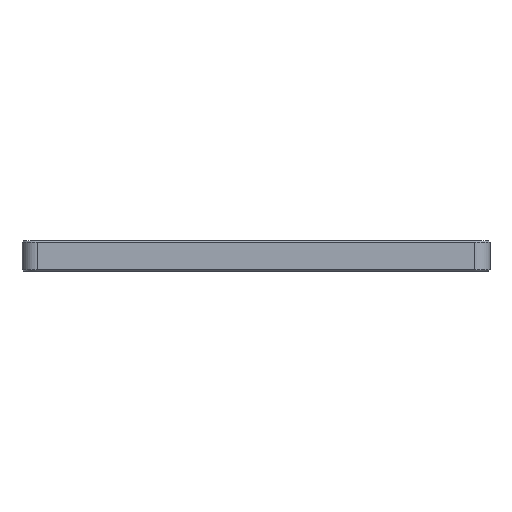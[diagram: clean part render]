
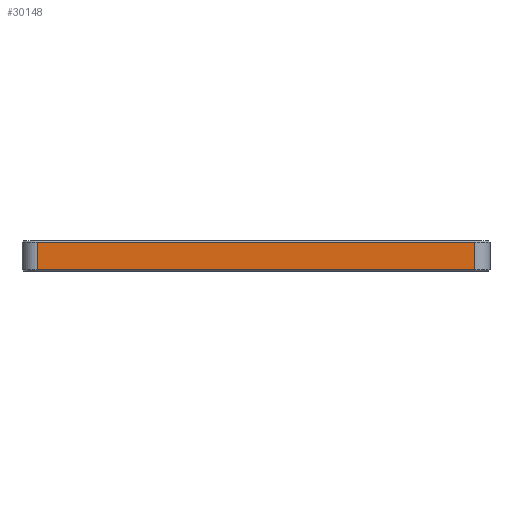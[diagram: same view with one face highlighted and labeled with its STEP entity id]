
A CAD part, front view. The second image highlights one B-rep face of the part: STEP entity #30148.
In plain terms, the highlighted planar face has unit normal (0, -1, 0).
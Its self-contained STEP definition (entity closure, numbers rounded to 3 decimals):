
#335 = PLANE('',#336);
#336 = AXIS2_PLACEMENT_3D('',#337,#338,#339);
#337 = CARTESIAN_POINT('',(293.6,0.5,19.247));
#338 = DIRECTION('',(0.,0.707,-0.707));
#339 = DIRECTION('',(-1.,0.,-0.));
#3107 = CYLINDRICAL_SURFACE('',#3108,10.);
#3108 = AXIS2_PLACEMENT_3D('',#3109,#3110,#3111);
#3109 = CARTESIAN_POINT('',(10.,10.,0.));
#3110 = DIRECTION('',(-0.,-0.,-1.));
#3111 = DIRECTION('',(1.,0.,0.));
#27490 = PLANE('',#27491);
#27491 = AXIS2_PLACEMENT_3D('',#27492,#27493,#27494);
#27492 = CARTESIAN_POINT('',(293.6,0.4,0.4));
#27493 = DIRECTION('',(0.,-0.707,-0.707));
#27494 = DIRECTION('',(-1.,-0.,0.));
#30016 = CYLINDRICAL_SURFACE('',#30017,10.);
#30017 = AXIS2_PLACEMENT_3D('',#30018,#30019,#30020);
#30018 = CARTESIAN_POINT('',(293.6,10.,0.));
#30019 = DIRECTION('',(-0.,-0.,-1.));
#30020 = DIRECTION('',(1.,0.,0.));
#30074 = EDGE_CURVE('',#30075,#30077,#30079,.T.);
#30075 = VERTEX_POINT('',#30076);
#30076 = CARTESIAN_POINT('',(293.6,0.,0.8));
#30077 = VERTEX_POINT('',#30078);
#30078 = CARTESIAN_POINT('',(293.6,0.,18.747));
#30079 = SURFACE_CURVE('',#30080,(#30084,#30091),.PCURVE_S1.);
#30080 = LINE('',#30081,#30082);
#30081 = CARTESIAN_POINT('',(293.6,0.,0.));
#30082 = VECTOR('',#30083,1.);
#30083 = DIRECTION('',(0.,0.,1.));
#30084 = PCURVE('',#30016,#30085);
#30085 = DEFINITIONAL_REPRESENTATION('',(#30086),#30090);
#30086 = LINE('',#30087,#30088);
#30087 = CARTESIAN_POINT('',(-4.712,0.));
#30088 = VECTOR('',#30089,1.);
#30089 = DIRECTION('',(-0.,-1.));
#30090 = ( GEOMETRIC_REPRESENTATION_CONTEXT(2) 
PARAMETRIC_REPRESENTATION_CONTEXT() REPRESENTATION_CONTEXT('2D SPACE',''
  ) );
#30091 = PCURVE('',#30092,#30097);
#30092 = PLANE('',#30093);
#30093 = AXIS2_PLACEMENT_3D('',#30094,#30095,#30096);
#30094 = CARTESIAN_POINT('',(10.,0.,0.));
#30095 = DIRECTION('',(0.,1.,0.));
#30096 = DIRECTION('',(1.,0.,0.));
#30097 = DEFINITIONAL_REPRESENTATION('',(#30098),#30102);
#30098 = LINE('',#30099,#30100);
#30099 = CARTESIAN_POINT('',(283.6,0.));
#30100 = VECTOR('',#30101,1.);
#30101 = DIRECTION('',(0.,-1.));
#30102 = ( GEOMETRIC_REPRESENTATION_CONTEXT(2) 
PARAMETRIC_REPRESENTATION_CONTEXT() REPRESENTATION_CONTEXT('2D SPACE',''
  ) );
#30148 = ADVANCED_FACE('',(#30149),#30092,.F.);
#30149 = FACE_BOUND('',#30150,.F.);
#30150 = EDGE_LOOP('',(#30151,#30176,#30197,#30198));
#30151 = ORIENTED_EDGE('',*,*,#30152,.T.);
#30152 = EDGE_CURVE('',#30153,#30155,#30157,.T.);
#30153 = VERTEX_POINT('',#30154);
#30154 = CARTESIAN_POINT('',(10.,0.,0.8));
#30155 = VERTEX_POINT('',#30156);
#30156 = CARTESIAN_POINT('',(10.,0.,18.747));
#30157 = SURFACE_CURVE('',#30158,(#30162,#30169),.PCURVE_S1.);
#30158 = LINE('',#30159,#30160);
#30159 = CARTESIAN_POINT('',(10.,0.,0.));
#30160 = VECTOR('',#30161,1.);
#30161 = DIRECTION('',(0.,0.,1.));
#30162 = PCURVE('',#30092,#30163);
#30163 = DEFINITIONAL_REPRESENTATION('',(#30164),#30168);
#30164 = LINE('',#30165,#30166);
#30165 = CARTESIAN_POINT('',(0.,0.));
#30166 = VECTOR('',#30167,1.);
#30167 = DIRECTION('',(0.,-1.));
#30168 = ( GEOMETRIC_REPRESENTATION_CONTEXT(2) 
PARAMETRIC_REPRESENTATION_CONTEXT() REPRESENTATION_CONTEXT('2D SPACE',''
  ) );
#30169 = PCURVE('',#3107,#30170);
#30170 = DEFINITIONAL_REPRESENTATION('',(#30171),#30175);
#30171 = LINE('',#30172,#30173);
#30172 = CARTESIAN_POINT('',(-4.712,0.));
#30173 = VECTOR('',#30174,1.);
#30174 = DIRECTION('',(-0.,-1.));
#30175 = ( GEOMETRIC_REPRESENTATION_CONTEXT(2) 
PARAMETRIC_REPRESENTATION_CONTEXT() REPRESENTATION_CONTEXT('2D SPACE',''
  ) );
#30176 = ORIENTED_EDGE('',*,*,#30177,.F.);
#30177 = EDGE_CURVE('',#30077,#30155,#30178,.T.);
#30178 = SURFACE_CURVE('',#30179,(#30183,#30190),.PCURVE_S1.);
#30179 = LINE('',#30180,#30181);
#30180 = CARTESIAN_POINT('',(293.6,0.,18.747));
#30181 = VECTOR('',#30182,1.);
#30182 = DIRECTION('',(-1.,-0.,-0.));
#30183 = PCURVE('',#30092,#30184);
#30184 = DEFINITIONAL_REPRESENTATION('',(#30185),#30189);
#30185 = LINE('',#30186,#30187);
#30186 = CARTESIAN_POINT('',(283.6,-18.747));
#30187 = VECTOR('',#30188,1.);
#30188 = DIRECTION('',(-1.,0.));
#30189 = ( GEOMETRIC_REPRESENTATION_CONTEXT(2) 
PARAMETRIC_REPRESENTATION_CONTEXT() REPRESENTATION_CONTEXT('2D SPACE',''
  ) );
#30190 = PCURVE('',#335,#30191);
#30191 = DEFINITIONAL_REPRESENTATION('',(#30192),#30196);
#30192 = LINE('',#30193,#30194);
#30193 = CARTESIAN_POINT('',(0.,-0.707));
#30194 = VECTOR('',#30195,1.);
#30195 = DIRECTION('',(1.,0.));
#30196 = ( GEOMETRIC_REPRESENTATION_CONTEXT(2) 
PARAMETRIC_REPRESENTATION_CONTEXT() REPRESENTATION_CONTEXT('2D SPACE',''
  ) );
#30197 = ORIENTED_EDGE('',*,*,#30074,.F.);
#30198 = ORIENTED_EDGE('',*,*,#30199,.T.);
#30199 = EDGE_CURVE('',#30075,#30153,#30200,.T.);
#30200 = SURFACE_CURVE('',#30201,(#30205,#30212),.PCURVE_S1.);
#30201 = LINE('',#30202,#30203);
#30202 = CARTESIAN_POINT('',(293.6,0.,0.8));
#30203 = VECTOR('',#30204,1.);
#30204 = DIRECTION('',(-1.,-0.,-0.));
#30205 = PCURVE('',#30092,#30206);
#30206 = DEFINITIONAL_REPRESENTATION('',(#30207),#30211);
#30207 = LINE('',#30208,#30209);
#30208 = CARTESIAN_POINT('',(283.6,-0.8));
#30209 = VECTOR('',#30210,1.);
#30210 = DIRECTION('',(-1.,0.));
#30211 = ( GEOMETRIC_REPRESENTATION_CONTEXT(2) 
PARAMETRIC_REPRESENTATION_CONTEXT() REPRESENTATION_CONTEXT('2D SPACE',''
  ) );
#30212 = PCURVE('',#27490,#30213);
#30213 = DEFINITIONAL_REPRESENTATION('',(#30214),#30218);
#30214 = LINE('',#30215,#30216);
#30215 = CARTESIAN_POINT('',(0.,-0.566));
#30216 = VECTOR('',#30217,1.);
#30217 = DIRECTION('',(1.,0.));
#30218 = ( GEOMETRIC_REPRESENTATION_CONTEXT(2) 
PARAMETRIC_REPRESENTATION_CONTEXT() REPRESENTATION_CONTEXT('2D SPACE',''
  ) );
